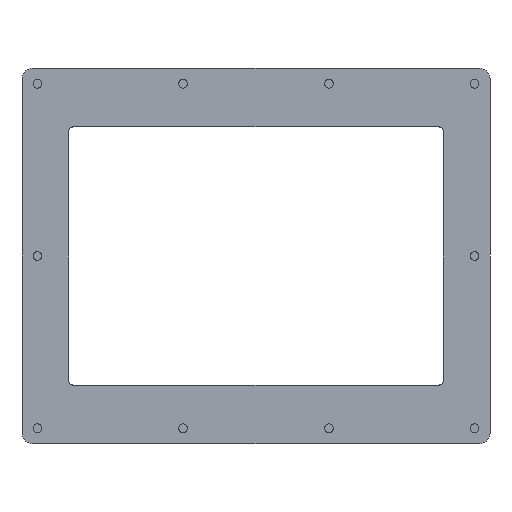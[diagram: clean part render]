
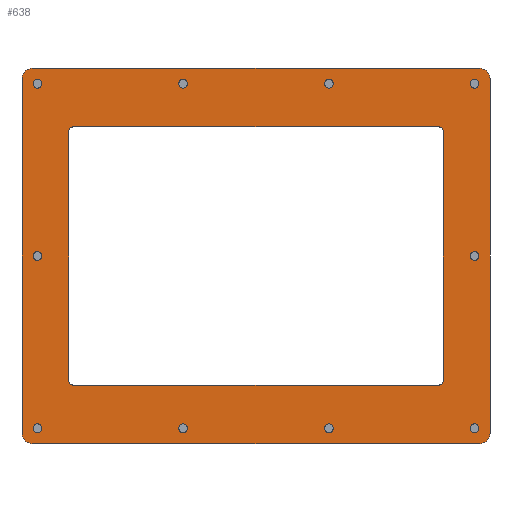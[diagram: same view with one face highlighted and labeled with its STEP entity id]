
A CAD part, front view. The second image highlights one B-rep face of the part: STEP entity #638.
In plain terms, the highlighted planar face has unit normal (0, -1, 0).
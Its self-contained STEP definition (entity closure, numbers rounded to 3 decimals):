
#66=CIRCLE('',#702,5.08);
#68=CIRCLE('',#706,5.08);
#70=CIRCLE('',#710,5.08);
#72=CIRCLE('',#714,1.905);
#74=CIRCLE('',#718,1.905);
#76=CIRCLE('',#722,1.905);
#78=CIRCLE('',#726,1.905);
#81=CIRCLE('',#731,1.707);
#83=CIRCLE('',#734,1.707);
#85=CIRCLE('',#737,1.707);
#87=CIRCLE('',#740,1.707);
#89=CIRCLE('',#743,1.707);
#91=CIRCLE('',#746,1.707);
#93=CIRCLE('',#749,1.707);
#95=CIRCLE('',#752,1.707);
#97=CIRCLE('',#755,1.707);
#99=CIRCLE('',#758,1.707);
#100=CIRCLE('',#760,5.08);
#236=ORIENTED_EDGE('',*,*,#335,.F.);
#237=ORIENTED_EDGE('',*,*,#333,.F.);
#238=ORIENTED_EDGE('',*,*,#331,.F.);
#239=ORIENTED_EDGE('',*,*,#329,.F.);
#240=ORIENTED_EDGE('',*,*,#327,.F.);
#241=ORIENTED_EDGE('',*,*,#325,.F.);
#242=ORIENTED_EDGE('',*,*,#323,.F.);
#243=ORIENTED_EDGE('',*,*,#321,.F.);
#244=ORIENTED_EDGE('',*,*,#319,.F.);
#245=ORIENTED_EDGE('',*,*,#317,.F.);
#246=ORIENTED_EDGE('',*,*,#292,.T.);
#247=ORIENTED_EDGE('',*,*,#296,.T.);
#248=ORIENTED_EDGE('',*,*,#299,.T.);
#249=ORIENTED_EDGE('',*,*,#302,.T.);
#250=ORIENTED_EDGE('',*,*,#305,.T.);
#251=ORIENTED_EDGE('',*,*,#308,.T.);
#252=ORIENTED_EDGE('',*,*,#311,.T.);
#253=ORIENTED_EDGE('',*,*,#314,.T.);
#254=ORIENTED_EDGE('',*,*,#270,.T.);
#255=ORIENTED_EDGE('',*,*,#274,.T.);
#256=ORIENTED_EDGE('',*,*,#277,.T.);
#257=ORIENTED_EDGE('',*,*,#280,.T.);
#258=ORIENTED_EDGE('',*,*,#283,.T.);
#259=ORIENTED_EDGE('',*,*,#286,.T.);
#260=ORIENTED_EDGE('',*,*,#289,.T.);
#261=ORIENTED_EDGE('',*,*,#336,.T.);
#270=EDGE_CURVE('',#342,#343,#398,.T.);
#274=EDGE_CURVE('',#343,#346,#66,.T.);
#277=EDGE_CURVE('',#346,#348,#403,.T.);
#280=EDGE_CURVE('',#348,#350,#68,.T.);
#283=EDGE_CURVE('',#350,#352,#407,.T.);
#286=EDGE_CURVE('',#352,#354,#70,.T.);
#289=EDGE_CURVE('',#354,#356,#411,.T.);
#292=EDGE_CURVE('',#358,#359,#72,.T.);
#296=EDGE_CURVE('',#359,#362,#416,.T.);
#299=EDGE_CURVE('',#362,#364,#74,.T.);
#302=EDGE_CURVE('',#364,#366,#420,.T.);
#305=EDGE_CURVE('',#366,#368,#76,.T.);
#308=EDGE_CURVE('',#368,#370,#424,.T.);
#311=EDGE_CURVE('',#370,#372,#78,.T.);
#314=EDGE_CURVE('',#372,#358,#428,.T.);
#317=EDGE_CURVE('',#375,#375,#81,.T.);
#319=EDGE_CURVE('',#377,#377,#83,.T.);
#321=EDGE_CURVE('',#379,#379,#85,.T.);
#323=EDGE_CURVE('',#381,#381,#87,.T.);
#325=EDGE_CURVE('',#383,#383,#89,.T.);
#327=EDGE_CURVE('',#385,#385,#91,.T.);
#329=EDGE_CURVE('',#387,#387,#93,.T.);
#331=EDGE_CURVE('',#389,#389,#95,.T.);
#333=EDGE_CURVE('',#391,#391,#97,.T.);
#335=EDGE_CURVE('',#393,#393,#99,.T.);
#336=EDGE_CURVE('',#356,#342,#100,.T.);
#342=VERTEX_POINT('',#989);
#343=VERTEX_POINT('',#990);
#346=VERTEX_POINT('',#998);
#348=VERTEX_POINT('',#1004);
#350=VERTEX_POINT('',#1010);
#352=VERTEX_POINT('',#1016);
#354=VERTEX_POINT('',#1022);
#356=VERTEX_POINT('',#1028);
#358=VERTEX_POINT('',#1034);
#359=VERTEX_POINT('',#1035);
#362=VERTEX_POINT('',#1043);
#364=VERTEX_POINT('',#1049);
#366=VERTEX_POINT('',#1055);
#368=VERTEX_POINT('',#1061);
#370=VERTEX_POINT('',#1067);
#372=VERTEX_POINT('',#1073);
#375=VERTEX_POINT('',#1084);
#377=VERTEX_POINT('',#1089);
#379=VERTEX_POINT('',#1094);
#381=VERTEX_POINT('',#1099);
#383=VERTEX_POINT('',#1104);
#385=VERTEX_POINT('',#1109);
#387=VERTEX_POINT('',#1114);
#389=VERTEX_POINT('',#1119);
#391=VERTEX_POINT('',#1124);
#393=VERTEX_POINT('',#1129);
#398=LINE('',#988,#430);
#403=LINE('',#1003,#435);
#407=LINE('',#1015,#439);
#411=LINE('',#1027,#443);
#416=LINE('',#1042,#448);
#420=LINE('',#1054,#452);
#424=LINE('',#1066,#456);
#428=LINE('',#1078,#460);
#430=VECTOR('',#788,1000.);
#435=VECTOR('',#801,1000.);
#439=VECTOR('',#813,1000.);
#443=VECTOR('',#825,1000.);
#448=VECTOR('',#838,1000.);
#452=VECTOR('',#850,1000.);
#456=VECTOR('',#862,1000.);
#460=VECTOR('',#874,1000.);
#510=EDGE_LOOP('',(#236));
#511=EDGE_LOOP('',(#237));
#512=EDGE_LOOP('',(#238));
#513=EDGE_LOOP('',(#239));
#514=EDGE_LOOP('',(#240));
#515=EDGE_LOOP('',(#241));
#516=EDGE_LOOP('',(#242));
#517=EDGE_LOOP('',(#243));
#518=EDGE_LOOP('',(#244));
#519=EDGE_LOOP('',(#245));
#520=EDGE_LOOP('',(#246,#247,#248,#249,#250,#251,#252,#253));
#521=EDGE_LOOP('',(#254,#255,#256,#257,#258,#259,#260,#261));
#578=FACE_BOUND('',#510,.T.);
#579=FACE_BOUND('',#511,.T.);
#580=FACE_BOUND('',#512,.T.);
#581=FACE_BOUND('',#513,.T.);
#582=FACE_BOUND('',#514,.T.);
#583=FACE_BOUND('',#515,.T.);
#584=FACE_BOUND('',#516,.T.);
#585=FACE_BOUND('',#517,.T.);
#586=FACE_BOUND('',#518,.T.);
#587=FACE_BOUND('',#519,.T.);
#588=FACE_BOUND('',#520,.T.);
#589=FACE_BOUND('',#521,.T.);
#607=PLANE('',#763);
#638=ADVANCED_FACE('',(#578,#579,#580,#581,#582,#583,#584,#585,#586,#587,
#588,#589),#607,.T.);
#702=AXIS2_PLACEMENT_3D('',#997,#794,#795);
#706=AXIS2_PLACEMENT_3D('',#1009,#806,#807);
#710=AXIS2_PLACEMENT_3D('',#1021,#818,#819);
#714=AXIS2_PLACEMENT_3D('',#1033,#830,#831);
#718=AXIS2_PLACEMENT_3D('',#1048,#843,#844);
#722=AXIS2_PLACEMENT_3D('',#1060,#855,#856);
#726=AXIS2_PLACEMENT_3D('',#1072,#867,#868);
#731=AXIS2_PLACEMENT_3D('',#1083,#880,#881);
#734=AXIS2_PLACEMENT_3D('',#1088,#886,#887);
#737=AXIS2_PLACEMENT_3D('',#1093,#892,#893);
#740=AXIS2_PLACEMENT_3D('',#1098,#898,#899);
#743=AXIS2_PLACEMENT_3D('',#1103,#904,#905);
#746=AXIS2_PLACEMENT_3D('',#1108,#910,#911);
#749=AXIS2_PLACEMENT_3D('',#1113,#916,#917);
#752=AXIS2_PLACEMENT_3D('',#1118,#922,#923);
#755=AXIS2_PLACEMENT_3D('',#1123,#928,#929);
#758=AXIS2_PLACEMENT_3D('',#1128,#934,#935);
#760=AXIS2_PLACEMENT_3D('',#1131,#938,#939);
#763=AXIS2_PLACEMENT_3D('',#1134,#944,#945);
#788=DIRECTION('',(0.,0.,1.));
#794=DIRECTION('',(0.,-1.,0.));
#795=DIRECTION('',(1.,0.,0.));
#801=DIRECTION('',(-1.,0.,0.));
#806=DIRECTION('',(0.,-1.,0.));
#807=DIRECTION('',(1.,0.,0.));
#813=DIRECTION('',(0.,0.,-1.));
#818=DIRECTION('',(0.,-1.,0.));
#819=DIRECTION('',(1.,0.,0.));
#825=DIRECTION('',(1.,0.,0.));
#830=DIRECTION('',(0.,1.,0.));
#831=DIRECTION('',(1.,0.,0.));
#838=DIRECTION('',(0.,0.,1.));
#843=DIRECTION('',(0.,1.,0.));
#844=DIRECTION('',(1.,0.,0.));
#850=DIRECTION('',(1.,0.,0.));
#855=DIRECTION('',(0.,1.,0.));
#856=DIRECTION('',(-1.,0.,0.));
#862=DIRECTION('',(0.,0.,-1.));
#867=DIRECTION('',(0.,1.,0.));
#868=DIRECTION('',(1.,0.,0.));
#874=DIRECTION('',(-1.,0.,0.));
#880=DIRECTION('',(0.,-1.,0.));
#881=DIRECTION('',(1.,0.,0.));
#886=DIRECTION('',(0.,-1.,0.));
#887=DIRECTION('',(1.,0.,0.));
#892=DIRECTION('',(0.,-1.,0.));
#893=DIRECTION('',(1.,0.,0.));
#898=DIRECTION('',(0.,-1.,0.));
#899=DIRECTION('',(1.,0.,0.));
#904=DIRECTION('',(0.,-1.,0.));
#905=DIRECTION('',(1.,0.,0.));
#910=DIRECTION('',(0.,-1.,0.));
#911=DIRECTION('',(1.,0.,0.));
#916=DIRECTION('',(0.,-1.,0.));
#917=DIRECTION('',(1.,0.,0.));
#922=DIRECTION('',(0.,-1.,0.));
#923=DIRECTION('',(1.,0.,0.));
#928=DIRECTION('',(0.,-1.,0.));
#929=DIRECTION('',(1.,0.,0.));
#934=DIRECTION('',(0.,-1.,0.));
#935=DIRECTION('',(1.,0.,0.));
#938=DIRECTION('',(0.,-1.,0.));
#939=DIRECTION('',(-1.,0.,0.));
#944=DIRECTION('',(0.,-1.,0.));
#945=DIRECTION('',(0.,0.,-1.));
#988=CARTESIAN_POINT('',(112.141,0.,-84.836));
#989=CARTESIAN_POINT('',(112.141,0.,-84.836));
#990=CARTESIAN_POINT('',(112.141,0.,84.836));
#997=CARTESIAN_POINT('',(107.061,0.,84.836));
#998=CARTESIAN_POINT('',(107.061,0.,89.916));
#1003=CARTESIAN_POINT('',(107.061,0.,89.916));
#1004=CARTESIAN_POINT('',(-107.061,0.,89.916));
#1009=CARTESIAN_POINT('',(-107.061,0.,84.836));
#1010=CARTESIAN_POINT('',(-112.141,0.,84.836));
#1015=CARTESIAN_POINT('',(-112.141,0.,84.836));
#1016=CARTESIAN_POINT('',(-112.141,0.,-84.836));
#1021=CARTESIAN_POINT('',(-107.061,0.,-84.836));
#1022=CARTESIAN_POINT('',(-107.061,0.,-89.916));
#1027=CARTESIAN_POINT('',(-107.061,0.,-89.916));
#1028=CARTESIAN_POINT('',(107.061,0.,-89.916));
#1033=CARTESIAN_POINT('',(-87.757,0.,-59.931));
#1034=CARTESIAN_POINT('',(-87.757,0.,-61.836));
#1035=CARTESIAN_POINT('',(-89.662,0.,-59.931));
#1042=CARTESIAN_POINT('',(-89.662,0.,-59.931));
#1043=CARTESIAN_POINT('',(-89.662,0.,59.931));
#1048=CARTESIAN_POINT('',(-87.757,0.,59.931));
#1049=CARTESIAN_POINT('',(-87.757,0.,61.836));
#1054=CARTESIAN_POINT('',(-87.757,0.,61.836));
#1055=CARTESIAN_POINT('',(87.757,0.,61.836));
#1060=CARTESIAN_POINT('',(87.757,0.,59.931));
#1061=CARTESIAN_POINT('',(89.662,0.,59.931));
#1066=CARTESIAN_POINT('',(89.662,0.,59.931));
#1067=CARTESIAN_POINT('',(89.662,0.,-59.931));
#1072=CARTESIAN_POINT('',(87.757,0.,-59.931));
#1073=CARTESIAN_POINT('',(87.757,0.,-61.836));
#1078=CARTESIAN_POINT('',(87.757,0.,-61.836));
#1083=CARTESIAN_POINT('',(-104.775,0.,82.55));
#1084=CARTESIAN_POINT('',(-103.068,0.,82.55));
#1088=CARTESIAN_POINT('',(-34.925,0.,82.55));
#1089=CARTESIAN_POINT('',(-33.218,0.,82.55));
#1093=CARTESIAN_POINT('',(34.925,0.,82.55));
#1094=CARTESIAN_POINT('',(36.632,0.,82.55));
#1098=CARTESIAN_POINT('',(104.775,0.,82.55));
#1099=CARTESIAN_POINT('',(106.482,0.,82.55));
#1103=CARTESIAN_POINT('',(104.775,0.,0.));
#1104=CARTESIAN_POINT('',(106.482,0.,0.));
#1108=CARTESIAN_POINT('',(104.775,0.,-82.55));
#1109=CARTESIAN_POINT('',(106.482,0.,-82.55));
#1113=CARTESIAN_POINT('',(34.925,0.,-82.55));
#1114=CARTESIAN_POINT('',(36.632,0.,-82.55));
#1118=CARTESIAN_POINT('',(-34.925,0.,-82.55));
#1119=CARTESIAN_POINT('',(-33.218,0.,-82.55));
#1123=CARTESIAN_POINT('',(-104.775,0.,-82.55));
#1124=CARTESIAN_POINT('',(-103.068,0.,-82.55));
#1128=CARTESIAN_POINT('',(-104.775,0.,0.));
#1129=CARTESIAN_POINT('',(-103.068,0.,0.));
#1131=CARTESIAN_POINT('',(107.061,0.,-84.836));
#1134=CARTESIAN_POINT('',(107.061,0.,84.836));
